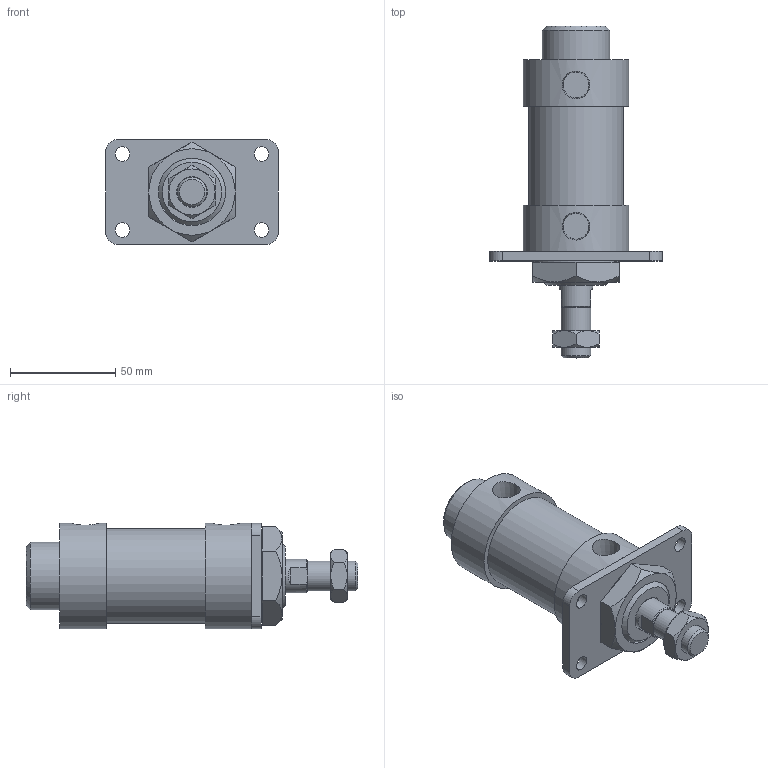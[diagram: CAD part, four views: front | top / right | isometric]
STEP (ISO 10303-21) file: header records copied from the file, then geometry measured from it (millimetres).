
FILE_DESCRIPTION(/* description */ ('Unknown'),/* implementation_level */ '2;1');
FILE_NAME(/* name */ 'WK40-FA',/* time_stamp */ '2026-07-17T16:34:03+08:00',/* author */ ('Unknown'),/* organization */ ('Unknown'),/* preprocessor_version */ 'ST-DEVELOPER v16.7',/* originating_system */ 'DEX',/* authorisation */ $);
FILE_SCHEMA (('CONFIG_CONTROL_DESIGN'));
Length unit declared in the file: millimetre
Products named in the file (8): WK40-FA; WK40_前; WK40_鋁; WK40_心軸活; WK40_«áŒè“‹.par:1; M14-1.5P-8_螺; WK40_WK50_FA; M32-2.0P-10_螺
Assembly tree (7 placements, depth 2):
  WK40-FA
    WK40_前
    WK40_鋁
    WK40_心軸活
    WK40_«áŒè“‹.par:1
    M14-1.5P-8_螺
    WK40_WK50_FA
    M32-2.0P-10_螺
Bounding box: 82 x 157.5 x 50 mm (x, y, z)
Volume: 216318.8 mm3; surface area: 59786.8 mm2
Topology: 7 solids, 7 shells, 95 faces, 206 edges, 132 vertices
Faces by surface type: plane 49, cylinder 24, cone 22
Full cylindrical faces by diameter (mm): 7 x4, 12.5 x1, 14 x1, 16 x2, 30 x1, 32 x3, 39.5 x1, 40 x1, 41 x1, 42 x2, 45 x1, 50 x2
Entity records: 3167 total; most frequent: CARTESIAN_POINT 565, DIRECTION 414, ORIENTED_EDGE 318, AXIS2_PLACEMENT_3D 182, EDGE_CURVE 159, EDGE_LOOP 154, FACE_BOUND 154, VERTEX_POINT 119
